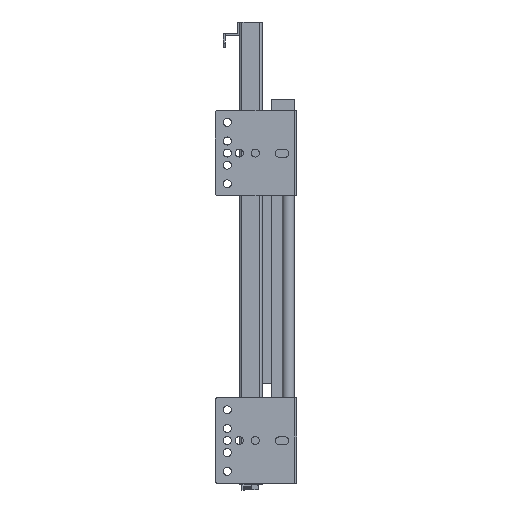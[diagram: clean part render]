
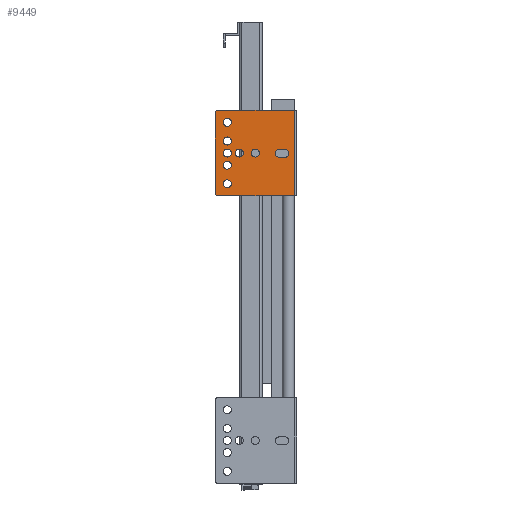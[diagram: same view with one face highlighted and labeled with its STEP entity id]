
A CAD part, left-side view. The second image highlights one B-rep face of the part: STEP entity #9449.
In plain terms, the highlighted planar face has unit normal (-1, 0, 0).
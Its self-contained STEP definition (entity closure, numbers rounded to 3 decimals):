
#300=PLANE('',#10030);
#653=FACE_BOUND('',#3396,.T.);
#654=FACE_BOUND('',#3397,.T.);
#655=FACE_BOUND('',#3398,.T.);
#656=FACE_BOUND('',#3399,.T.);
#657=FACE_BOUND('',#3400,.T.);
#658=FACE_BOUND('',#3401,.T.);
#659=FACE_BOUND('',#3402,.T.);
#660=FACE_BOUND('',#3403,.T.);
#822=LINE('',#13619,#1852);
#826=LINE('',#13630,#1856);
#834=LINE('',#13687,#1864);
#841=LINE('',#13709,#1871);
#843=LINE('',#13715,#1873);
#846=LINE('',#13721,#1876);
#1852=VECTOR('',#10900,10.);
#1856=VECTOR('',#10912,10.);
#1864=VECTOR('',#10974,10.);
#1871=VECTOR('',#10995,10.);
#1873=VECTOR('',#11003,10.);
#1876=VECTOR('',#11010,10.);
#2871=FACE_OUTER_BOUND('',#3395,.T.);
#3395=EDGE_LOOP('',(#6738,#6739,#6740,#6741,#6742,#6743));
#3396=EDGE_LOOP('',(#6744,#6745,#6746,#6747));
#3397=EDGE_LOOP('',(#6748));
#3398=EDGE_LOOP('',(#6749));
#3399=EDGE_LOOP('',(#6750));
#3400=EDGE_LOOP('',(#6751));
#3401=EDGE_LOOP('',(#6752));
#3402=EDGE_LOOP('',(#6753));
#3403=EDGE_LOOP('',(#6754));
#3996=CIRCLE('',#9983,3.);
#3998=CIRCLE('',#9987,3.);
#4000=CIRCLE('',#9991,3.);
#4002=CIRCLE('',#9994,3.);
#4004=CIRCLE('',#9997,3.);
#4006=CIRCLE('',#10000,3.);
#4008=CIRCLE('',#10003,3.);
#4010=CIRCLE('',#10006,3.);
#4012=CIRCLE('',#10009,3.);
#4018=CIRCLE('',#10019,2.);
#4021=CIRCLE('',#10025,2.);
#4336=VERTEX_POINT('',#13609);
#4337=VERTEX_POINT('',#13610);
#4340=VERTEX_POINT('',#13618);
#4342=VERTEX_POINT('',#13624);
#4344=VERTEX_POINT('',#13633);
#4346=VERTEX_POINT('',#13638);
#4348=VERTEX_POINT('',#13643);
#4350=VERTEX_POINT('',#13648);
#4352=VERTEX_POINT('',#13653);
#4354=VERTEX_POINT('',#13658);
#4356=VERTEX_POINT('',#13663);
#4364=VERTEX_POINT('',#13684);
#4365=VERTEX_POINT('',#13686);
#4367=VERTEX_POINT('',#13692);
#4368=VERTEX_POINT('',#13693);
#4373=VERTEX_POINT('',#13708);
#4374=VERTEX_POINT('',#13714);
#5263=EDGE_CURVE('',#4336,#4337,#3996,.T.);
#5267=EDGE_CURVE('',#4337,#4340,#822,.T.);
#5270=EDGE_CURVE('',#4340,#4342,#3998,.T.);
#5273=EDGE_CURVE('',#4342,#4336,#826,.T.);
#5275=EDGE_CURVE('',#4344,#4344,#4000,.T.);
#5277=EDGE_CURVE('',#4346,#4346,#4002,.T.);
#5279=EDGE_CURVE('',#4348,#4348,#4004,.T.);
#5281=EDGE_CURVE('',#4350,#4350,#4006,.T.);
#5283=EDGE_CURVE('',#4352,#4352,#4008,.T.);
#5285=EDGE_CURVE('',#4354,#4354,#4010,.T.);
#5287=EDGE_CURVE('',#4356,#4356,#4012,.T.);
#5298=EDGE_CURVE('',#4364,#4365,#834,.T.);
#5301=EDGE_CURVE('',#4367,#4368,#4018,.T.);
#5309=EDGE_CURVE('',#4368,#4373,#841,.T.);
#5311=EDGE_CURVE('',#4373,#4364,#4021,.T.);
#5312=EDGE_CURVE('',#4365,#4374,#843,.T.);
#5316=EDGE_CURVE('',#4367,#4374,#846,.T.);
#6738=ORIENTED_EDGE('',*,*,#5301,.F.);
#6739=ORIENTED_EDGE('',*,*,#5316,.T.);
#6740=ORIENTED_EDGE('',*,*,#5312,.F.);
#6741=ORIENTED_EDGE('',*,*,#5298,.F.);
#6742=ORIENTED_EDGE('',*,*,#5311,.F.);
#6743=ORIENTED_EDGE('',*,*,#5309,.F.);
#6744=ORIENTED_EDGE('',*,*,#5270,.T.);
#6745=ORIENTED_EDGE('',*,*,#5273,.T.);
#6746=ORIENTED_EDGE('',*,*,#5263,.T.);
#6747=ORIENTED_EDGE('',*,*,#5267,.T.);
#6748=ORIENTED_EDGE('',*,*,#5275,.T.);
#6749=ORIENTED_EDGE('',*,*,#5277,.T.);
#6750=ORIENTED_EDGE('',*,*,#5279,.T.);
#6751=ORIENTED_EDGE('',*,*,#5281,.T.);
#6752=ORIENTED_EDGE('',*,*,#5283,.T.);
#6753=ORIENTED_EDGE('',*,*,#5285,.T.);
#6754=ORIENTED_EDGE('',*,*,#5287,.T.);
#9449=ADVANCED_FACE('',(#2871,#653,#654,#655,#656,#657,#658,#659,#660),
#300,.T.);
#9983=AXIS2_PLACEMENT_3D('',#13611,#10892,#10893);
#9987=AXIS2_PLACEMENT_3D('',#13625,#10905,#10906);
#9991=AXIS2_PLACEMENT_3D('',#13634,#10916,#10917);
#9994=AXIS2_PLACEMENT_3D('',#13639,#10922,#10923);
#9997=AXIS2_PLACEMENT_3D('',#13644,#10928,#10929);
#10000=AXIS2_PLACEMENT_3D('',#13649,#10934,#10935);
#10003=AXIS2_PLACEMENT_3D('',#13654,#10940,#10941);
#10006=AXIS2_PLACEMENT_3D('',#13659,#10946,#10947);
#10009=AXIS2_PLACEMENT_3D('',#13664,#10952,#10953);
#10019=AXIS2_PLACEMENT_3D('',#13694,#10980,#10981);
#10025=AXIS2_PLACEMENT_3D('',#13712,#10999,#11000);
#10030=AXIS2_PLACEMENT_3D('',#13723,#11013,#11014);
#10892=DIRECTION('center_axis',(1.,0.,0.));
#10893=DIRECTION('ref_axis',(0.,0.,
-1.));
#10900=DIRECTION('',(0.,-1.,0.));
#10905=DIRECTION('center_axis',(1.,0.,0.));
#10906=DIRECTION('ref_axis',(0.,0.,
1.));
#10912=DIRECTION('',(0.,1.,0.));
#10916=DIRECTION('center_axis',(1.,0.,0.));
#10917=DIRECTION('ref_axis',(0.,0.,-1.));
#10922=DIRECTION('center_axis',(1.,0.,0.));
#10923=DIRECTION('ref_axis',(0.,0.,-1.));
#10928=DIRECTION('center_axis',(1.,0.,0.));
#10929=DIRECTION('ref_axis',(0.,0.,-1.));
#10934=DIRECTION('center_axis',(1.,0.,0.));
#10935=DIRECTION('ref_axis',(0.,0.,-1.));
#10940=DIRECTION('center_axis',(1.,0.,0.));
#10941=DIRECTION('ref_axis',(0.,0.,-1.));
#10946=DIRECTION('center_axis',(1.,0.,0.));
#10947=DIRECTION('ref_axis',(0.,0.,-1.));
#10952=DIRECTION('center_axis',(1.,0.,0.));
#10953=DIRECTION('ref_axis',(0.,0.,-1.));
#10974=DIRECTION('',(0.,-1.,0.));
#10980=DIRECTION('center_axis',(1.,0.,0.));
#10981=DIRECTION('ref_axis',(0.,0.707,-0.707));
#10995=DIRECTION('',(0.,0.,1.));
#10999=DIRECTION('center_axis',(1.,0.,0.));
#11000=DIRECTION('ref_axis',(0.,0.707,0.707));
#11003=DIRECTION('',(0.,0.,-1.));
#11010=DIRECTION('',(0.,-1.,0.));
#11013=DIRECTION('center_axis',(-1.,0.,0.));
#11014=DIRECTION('ref_axis',(0.,-1.,0.));
#13609=CARTESIAN_POINT('',(0.,23.134,243.71));
#13610=CARTESIAN_POINT('',(0.,23.134,249.71));
#13611=CARTESIAN_POINT('Origin',(0.,23.134,
246.71));
#13618=CARTESIAN_POINT('',(0.,19.134,249.71));
#13619=CARTESIAN_POINT('',(0.,45.134,249.71));
#13624=CARTESIAN_POINT('',(0.,19.134,243.71));
#13625=CARTESIAN_POINT('Origin',(0.,19.134,
246.71));
#13630=CARTESIAN_POINT('',(0.,47.134,243.71));
#13633=CARTESIAN_POINT('',(0.,53.134,250.));
#13634=CARTESIAN_POINT('Origin',(0.,53.134,
247.));
#13638=CARTESIAN_POINT('',(0.,62.134,241.));
#13639=CARTESIAN_POINT('Origin',(0.,62.134,
238.));
#13643=CARTESIAN_POINT('',(0.,62.134,259.));
#13644=CARTESIAN_POINT('Origin',(0.,62.134,
256.));
#13648=CARTESIAN_POINT('',(0.,62.134,273.));
#13649=CARTESIAN_POINT('Origin',(0.,62.134,
270.));
#13653=CARTESIAN_POINT('',(0.,62.134,250.));
#13654=CARTESIAN_POINT('Origin',(0.,62.134,
247.));
#13658=CARTESIAN_POINT('',(0.,62.134,227.));
#13659=CARTESIAN_POINT('Origin',(0.,62.134,
224.));
#13663=CARTESIAN_POINT('',(0.,41.134,250.));
#13664=CARTESIAN_POINT('Origin',(0.,41.134,
247.));
#13684=CARTESIAN_POINT('',(0.,69.134,279.));
#13686=CARTESIAN_POINT('',(0.,12.134,279.));
#13687=CARTESIAN_POINT('',(0.,71.134,279.));
#13692=CARTESIAN_POINT('',(0.,69.134,215.));
#13693=CARTESIAN_POINT('',(0.,71.134,217.));
#13694=CARTESIAN_POINT('Origin',(0.,69.134,
217.));
#13708=CARTESIAN_POINT('',(0.,71.134,277.));
#13709=CARTESIAN_POINT('',(0.,71.134,215.));
#13712=CARTESIAN_POINT('Origin',(0.,69.134,
277.));
#13714=CARTESIAN_POINT('',(0.,12.134,215.));
#13715=CARTESIAN_POINT('',(0.,12.134,215.));
#13721=CARTESIAN_POINT('',(0.,71.134,215.));
#13723=CARTESIAN_POINT('Origin',(0.,71.134,
215.));
